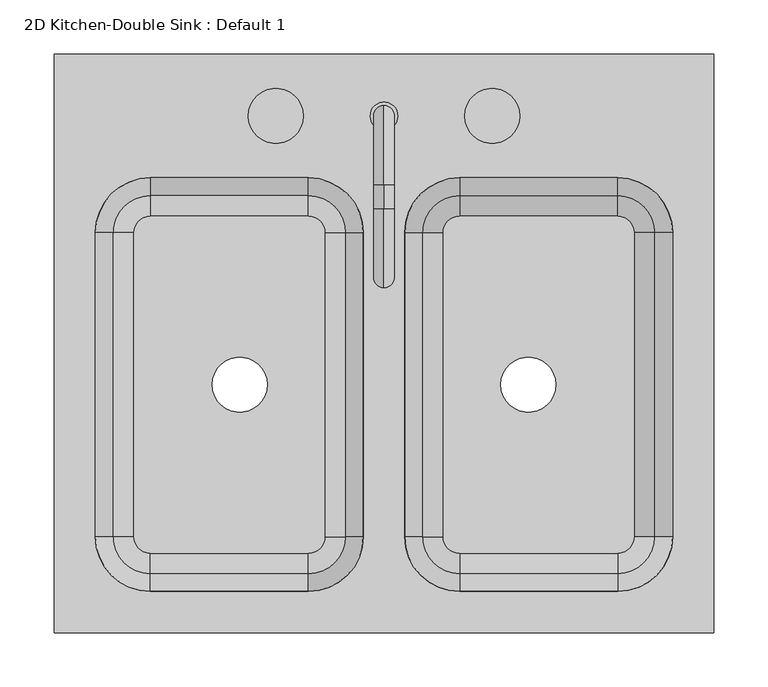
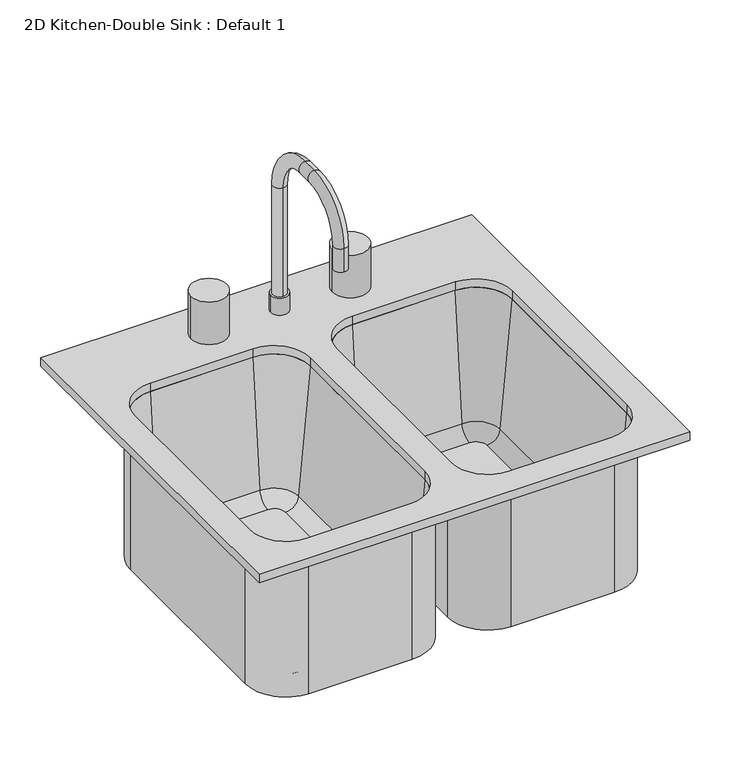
"""IFC4 building model written with IfcOpenShell, lengths in millimetres: flow terminal geometry, 2D Kitchen-Double Sink : Default 1."""

import ifcopenshell
import ifcopenshell.guid

model = None  # the IFC model being written
_history = None  # IfcOwnerHistory: only IFC2X3 demands one
_inside = {}  # id of a spatial element -> (the spatial element, [elements in it])
_under = {}  # id of a project, library or spatial element -> (it, [spatial elements below it])
_declared = {}  # id of a project -> (the project, [libraries it declares])
_typed = {}  # id of a type object -> (the type object, [elements of that type])
_made_of = {}  # id of a material, layer set ... -> (it, [elements and type objects made of it])


def new_model(schema):
    """Start an empty IFC model of exactly this schema.

    Asked for "IFC4X3", IfcOpenShell would pick the latest addendum, in which some entities
    have other attributes; the version numbers below select the first issue.
    IFC2X3 requires an IfcOwnerHistory on every rooted entity: one is made here for all.
    """
    global model, _history
    if schema == "IFC4X3":
        model = ifcopenshell.file(schema_version=(4, 3, 0, 0))
    else:
        model = ifcopenshell.file(schema=schema)
    _inside.clear()
    _under.clear()
    _declared.clear()
    _typed.clear()
    _made_of.clear()
    _history = None
    if model.schema == "IFC2X3":
        org = make("IfcOrganization", Name="unknown")
        user = make(
            "IfcPersonAndOrganization",
            ThePerson=make("IfcPerson", FamilyName="unknown"),
            TheOrganization=org,
        )
        app = make(
            "IfcApplication",
            ApplicationDeveloper=org,
            Version="unknown",
            ApplicationFullName="unknown",
            ApplicationIdentifier="unknown",
        )
        _history = make(
            "IfcOwnerHistory",
            OwningUser=user,
            OwningApplication=app,
            ChangeAction="ADDED",
            CreationDate=0,
        )
    return model


def make(cls, **values):
    """One entity of the class cls with the attributes given. An attribute that is None is left unset."""
    return model.create_entity(
        cls, **{name: value for name, value in values.items() if value is not None}
    )


def rooted(cls, **values):
    """An entity with a GlobalId (a new one), such as an element, a storey or a relation."""
    return make(cls, GlobalId=ifcopenshell.guid.new(), OwnerHistory=_history, **values)


def si_unit(unit_type, name, prefix=None):
    """IfcSIUnit, for example si_unit("LENGTHUNIT", "METRE", prefix="MILLI")."""
    return make("IfcSIUnit", UnitType=unit_type, Prefix=prefix, Name=name)


def assignment(units):
    """IfcUnitAssignment: the units of a project."""
    return None if units is None else make("IfcUnitAssignment", Units=units)


def point(xyz):
    """IfcCartesianPoint."""
    return None if xyz is None else make("IfcCartesianPoint", Coordinates=xyz)


def direction(xyz):
    """IfcDirection."""
    return None if xyz is None else make("IfcDirection", DirectionRatios=xyz)


def frame(location, z_axis=None, x_axis=None):
    """IfcAxis2Placement3D, a coordinate frame: its origin and axes. An axis left out is left unset."""
    return make(
        "IfcAxis2Placement3D",
        Location=point(location),
        Axis=direction(z_axis),
        RefDirection=direction(x_axis),
    )


def frame_2d(location, x_axis=None):
    """IfcAxis2Placement2D, a coordinate frame in the plane: its origin and x axis."""
    return make(
        "IfcAxis2Placement2D", Location=point(location), RefDirection=direction(x_axis)
    )


def origin():
    """The frame at (0, 0, 0) with its axes left unset."""
    return frame((0.0, 0.0, 0.0))


def place(relative_to, where):
    """IfcLocalPlacement: puts the frame where relative to a parent placement (None: the world)."""
    return make(
        "IfcLocalPlacement", PlacementRelTo=relative_to, RelativePlacement=where
    )


def context(
    kind, dimensions, precision=None, world=None, true_north=None, identifier=None
):
    """IfcGeometricRepresentationContext, for example the 3D "Model" context."""
    return make(
        "IfcGeometricRepresentationContext",
        ContextIdentifier=identifier,
        ContextType=kind,
        CoordinateSpaceDimension=dimensions,
        Precision=precision,
        WorldCoordinateSystem=world,
        TrueNorth=true_north,
    )


def project(units=None, contexts=None):
    """IfcProject with its units and contexts."""
    return rooted(
        "IfcProject",
        Name="project",
        RepresentationContexts=contexts,
        UnitsInContext=assignment(units),
    )


def spatial(cls, under=None, at=None, **own):
    """A site, building, storey or space (cls), placed at a placement, below another one or the project."""
    s = rooted(cls, ObjectPlacement=at, **own)
    if under is not None:
        _under.setdefault(under.id(), (under, []))[1].append(s)
    return s


def polyline(points):
    """IfcPolyline through the points."""
    return make("IfcPolyline", Points=[point(p) for p in points])


def circle_curve(where, radius):
    """IfcCircle in the frame where."""
    return make("IfcCircle", Position=where, Radius=radius)


def ellipse_curve(where, semi_axis1, semi_axis2):
    """IfcEllipse in the frame where."""
    return make(
        "IfcEllipse", Position=where, SemiAxis1=semi_axis1, SemiAxis2=semi_axis2
    )


def trimmed(basis, trim1, trim2, sense, master):
    """IfcTrimmedCurve: the piece of a basis curve between two trims."""
    return make(
        "IfcTrimmedCurve",
        BasisCurve=basis,
        Trim1=trim1,
        Trim2=trim2,
        SenseAgreement=sense,
        MasterRepresentation=master,
    )


def segment(curve, same_sense, transition):
    """IfcCompositeCurveSegment."""
    return make(
        "IfcCompositeCurveSegment",
        Transition=transition,
        SameSense=same_sense,
        ParentCurve=curve,
    )


def composite_curve(segments, self_intersect=None):
    """IfcCompositeCurve: segments joined end to end."""
    return make("IfcCompositeCurve", Segments=segments, SelfIntersect=self_intersect)


def outline(outer, holes=None, kind="AREA"):
    """IfcArbitraryClosedProfileDef: a profile drawn as a closed curve; with holes, ...WithVoids."""
    if holes is None:
        return make("IfcArbitraryClosedProfileDef", ProfileType=kind, OuterCurve=outer)
    return make(
        "IfcArbitraryProfileDefWithVoids",
        ProfileType=kind,
        OuterCurve=outer,
        InnerCurves=holes,
    )


def extrude(swept, where, along, depth):
    """IfcExtrudedAreaSolid: the profile swept, set in the frame where, extruded along a direction by depth."""
    return make(
        "IfcExtrudedAreaSolid",
        SweptArea=swept,
        Position=where,
        ExtrudedDirection=direction(along),
        Depth=depth,
    )


def shape(context_of_items, identifier, shape_type, items):
    """IfcShapeRepresentation: the items that make up one representation, for example the "Body"."""
    return make(
        "IfcShapeRepresentation",
        ContextOfItems=context_of_items,
        RepresentationIdentifier=identifier,
        RepresentationType=shape_type,
        Items=items,
    )


def source(mapping_origin, context_of_items, identifier, shape_type, items):
    """IfcRepresentationMap: a shape defined once, which mapped items show again and again."""
    return make(
        "IfcRepresentationMap",
        MappingOrigin=mapping_origin,
        MappedRepresentation=shape(context_of_items, identifier, shape_type, items),
    )


def transform(
    local_origin,
    x_axis=None,
    y_axis=None,
    z_axis=None,
    scale=None,
    scale2=None,
    scale3=None,
    uniform=True,
):
    """IfcCartesianTransformationOperator3D, or its non-uniform kind. x_axis, y_axis, z_axis: its Axis1, 2, 3."""
    if uniform:
        return make(
            "IfcCartesianTransformationOperator3D",
            Axis1=direction(x_axis),
            Axis2=direction(y_axis),
            LocalOrigin=point(local_origin),
            Scale=scale,
            Axis3=direction(z_axis),
        )
    return make(
        "IfcCartesianTransformationOperator3DnonUniform",
        Axis1=direction(x_axis),
        Axis2=direction(y_axis),
        LocalOrigin=point(local_origin),
        Scale=scale,
        Axis3=direction(z_axis),
        Scale2=scale2,
        Scale3=scale3,
    )


def mapped(mapping_source, mapping_target):
    """IfcMappedItem: shows the shape of a source again, moved by a transform."""
    return make(
        "IfcMappedItem", MappingSource=mapping_source, MappingTarget=mapping_target
    )


def made_of(thing, what):
    """Note that an element or type object is made of a material, layer set ...; save() writes the relation."""
    if what is not None:
        _made_of.setdefault(what.id(), (what, []))[1].append(thing)
    return thing


def element(
    cls,
    number,
    at=None,
    inside=None,
    cuts=None,
    type_object=None,
    material=None,
    context=None,
    identifier="Body",
    shape_type=None,
    held_by="IfcProductDefinitionShape",
    body=None,
    shapes=None,
    **own,
):
    """One element of the class cls, such as IfcWall. Its Tag is "e" and its number.

    at: its placement. inside: the storey or other place that contains it. cuts: it is an
    opening in that element (IfcRelVoidsElement). A single representation is given by context,
    identifier, shape_type and body (its items); several are given by shapes. held_by: the class
    of the entity that holds the representations. save() writes the other relations.
    """
    e = rooted(cls, Tag="e%d" % number, ObjectPlacement=at, **own)
    if body is not None:
        shapes = [shape(context, identifier, shape_type, body)]
    if shapes is not None:
        e.Representation = make(held_by, Representations=shapes)
    if inside is not None:
        _inside.setdefault(inside.id(), (inside, []))[1].append(e)
    if cuts is not None:
        rooted(
            "IfcRelVoidsElement", RelatingBuildingElement=cuts, RelatedOpeningElement=e
        )
    if type_object is not None:
        _typed.setdefault(type_object.id(), (type_object, []))[1].append(e)
    return made_of(e, material)


def aggregate(whole, parts):
    """IfcRelAggregates: a whole, such as a stair, and the parts it consists of."""
    return rooted("IfcRelAggregates", RelatingObject=whole, RelatedObjects=parts)


def save(model, path):
    """Write the relations noted so far, then the file.

    IfcRelAggregates (storeys below a building ...), IfcRelContainedInSpatialStructure (elements
    in a storey), IfcRelDefinesByType, IfcRelAssociatesMaterial and IfcRelDeclares: one each for
    every whole, place, type object, material and project.
    """
    for whole, parts in _under.values():
        aggregate(whole, parts)
    for where, things in _inside.values():
        rooted(
            "IfcRelContainedInSpatialStructure",
            RelatedElements=things,
            RelatingStructure=where,
        )
    for kind, things in _typed.values():
        rooted("IfcRelDefinesByType", RelatedObjects=things, RelatingType=kind)
    for what, things in _made_of.values():
        rooted("IfcRelAssociatesMaterial", RelatedObjects=things, RelatingMaterial=what)
    for by, libraries in _declared.values():
        rooted("IfcRelDeclares", RelatingContext=by, RelatedDefinitions=libraries)
    model.write(path)


def plane_surface(at):
    """IfcPlane: the flat surface through the origin of the frame at, square to its z axis."""
    return make("IfcPlane", Position=at)


def cylinder_surface(at, radius):
    """IfcCylindricalSurface: all points at the distance radius from the z axis of the frame at."""
    return make("IfcCylindricalSurface", Position=at, Radius=radius)


def revolved_surface(curve, axis_point, axis_direction):
    """IfcSurfaceOfRevolution: the curve turned about the line through axis_point along axis_direction."""
    return make(
        "IfcSurfaceOfRevolution",
        SweptCurve=make("IfcArbitraryOpenProfileDef", ProfileType="CURVE", Curve=curve),
        AxisPosition=make("IfcAxis1Placement", Location=point(axis_point), Axis=direction(axis_direction)),
    )


def advanced_brep(points, edges, surfaces, faces):
    """IfcAdvancedBrep: a solid bounded by faces that lie on surfaces and meet in shared edges.

    An edge is (start, end): straight between two places in points (the first is 0);
    or (start, end, curve); or (start, end, curve, False) where it runs against its curve.
    A face is (place in surfaces, loops), or (place, loops, False) where it looks against
    its surface's normal. A loop lists edges by number (the first is 1), with a minus sign
    where the edge is run from its end to its start. The first loop is the outer one.
    """
    corners = [point(p) for p in points]
    vertices = [make("IfcVertexPoint", VertexGeometry=c) for c in corners]
    made = []
    for start, end, *more in edges:
        made.append(
            make(
                "IfcEdgeCurve",
                EdgeStart=vertices[start],
                EdgeEnd=vertices[end],
                EdgeGeometry=more[0] if more else make("IfcPolyline", Points=[corners[start], corners[end]]),
                SameSense=more[1] if len(more) > 1 else True,
            )
        )
    hull = []
    for where, loops, *sense in faces:
        bounds = []
        for j, loop in enumerate(loops):
            ring = [make("IfcOrientedEdge", EdgeElement=made[abs(k) - 1], Orientation=k > 0) for k in loop]
            bounds.append(
                make(
                    "IfcFaceOuterBound" if j == 0 else "IfcFaceBound",
                    Bound=make("IfcEdgeLoop", EdgeList=ring),
                    Orientation=True,
                )
            )
        hull.append(make("IfcAdvancedFace", Bounds=bounds, FaceSurface=surfaces[where], SameSense=sense[0] if sense else True))
    return make("IfcAdvancedBrep", Outer=make("IfcClosedShell", CfsFaces=hull))


def flow_terminal_2d_kitchen_double_sink_default_1_641e8a09(model_context):
    return source(origin(), model_context, "Body", "SolidModel", [
        advanced_brep(
        [(231.5892342, 120.0275693, 555.625), (85.5392406, 120.0275693, 555.625), (70.2508224, 104.7391511, 555.625), (70.2508224, -176.2483489, 555.625), (85.5392406, -191.5367671, 555.625), (231.5892406, -191.5367671, 555.625), (246.8776588, -176.2483489, 555.625), (246.8776588, 104.7391511, 555.625), (123.6392406, -35.7545989, 555.625), (174.4392406, -35.7545989, 555.625), (28.3892406, 104.7391511, 546.1), (85.5392406, 161.8891511, 546.1), (231.5892406, 161.8891511, 546.1), (288.7392406, 104.7391511, 546.1), (288.7392406, -176.2483489, 546.1), (231.5892406, -233.3983489, 546.1), (85.5392406, -233.3983489, 546.1), (28.3892406, -176.2483489, 546.1), (123.6392406, -35.7545989, 546.1), (174.4392406, -35.7545989, 546.1), (34.7392406, 104.7391511, 762.0), (85.5392406, 155.5391511, 762.0), (85.5392406, 161.8891511, 762.0), (28.3892406, 104.7391511, 762.0), (51.2733134, 104.7391511, 573.0146831), (85.5392406, 139.0050783, 573.0146831), (28.3892406, -176.2483489, 762.0), (34.7392406, -176.2483489, 762.0), (51.2733134, -176.2483489, 573.0146831), (85.5392406, -233.3983489, 762.0), (85.5392406, -227.0483489, 762.0), (85.5392406, -210.5142761, 573.0146831), (231.5892406, -233.3983489, 762.0), (231.5892406, -227.0483489, 762.0), (231.5892406, -210.5142761, 573.0146831), (288.7392406, -176.2483489, 762.0), (282.3892406, -176.2483489, 762.0), (265.8551678, -176.2483489, 573.0146831), (288.7392406, 104.7391511, 762.0), (282.3892406, 104.7391511, 762.0), (265.8551678, 104.7391511, 573.0146831), (231.5892406, 161.8891511, 762.0), (231.5892406, 155.5391511, 762.0), (231.5892406, 139.0050783, 573.0146831)],
        [
            (0, 1),
            (1, 2, circle_curve(frame((85.5392406, 104.7391511, 555.625), z_axis=(0.0, 0.0, 1.0), x_axis=(0.0, 1.0, 0.0)), 15.2884182)),
            (2, 3),
            (3, 4, circle_curve(frame((85.5392406, -176.2483489, 555.625), z_axis=(0.0, 0.0, 1.0), x_axis=(-1.0, 0.0, 0.0)), 15.2884182)),
            (4, 5),
            (5, 6, circle_curve(frame((231.5892406, -176.2483489, 555.625), z_axis=(0.0, 0.0, 1.0), x_axis=(0.0, -1.0, 0.0)), 15.2884182)),
            (6, 7),
            (7, 0, circle_curve(frame((231.5892406, 104.7391511, 555.625), z_axis=(0.0, 0.0, 1.0), x_axis=(1.0, 0.0, 0.0)), 15.2884182)),
            (8, 9, circle_curve(frame((149.0392406, -35.7545989, 555.625), z_axis=(0.0, 0.0, -1.0), x_axis=(1.0, 0.0, 0.0)), 25.4)),
            (9, 8, circle_curve(frame((149.0392406, -35.7545989, 555.625), z_axis=(0.0, 0.0, -1.0), x_axis=(1.0, 0.0, 0.0)), 25.4)),
            (10, 11, circle_curve(frame((85.5392406, 104.7391511, 546.1), z_axis=(0.0, 0.0, -1.0), x_axis=(0.0, 1.0, 0.0)), 57.15)),
            (11, 12),
            (12, 13, circle_curve(frame((231.5892406, 104.7391511, 546.1), z_axis=(0.0, 0.0, -1.0), x_axis=(1.0, 0.0, 0.0)), 57.15)),
            (13, 14),
            (14, 15, circle_curve(frame((231.5892406, -176.2483489, 546.1), z_axis=(0.0, 0.0, -1.0), x_axis=(0.0, -1.0, 0.0)), 57.15)),
            (15, 16),
            (16, 17, circle_curve(frame((85.5392406, -176.2483489, 546.1), z_axis=(0.0, 0.0, -1.0), x_axis=(-1.0, 0.0, 0.0)), 57.15)),
            (17, 10),
            (18, 19, circle_curve(frame((149.0392406, -35.7545989, 546.1), z_axis=(0.0, 0.0, 1.0), x_axis=(1.0, 0.0, 0.0)), 25.4)),
            (19, 18, circle_curve(frame((149.0392406, -35.7545989, 546.1), z_axis=(0.0, 0.0, 1.0), x_axis=(1.0, 0.0, 0.0)), 25.4)),
            (8, 18),
            (19, 9),
            (20, 21, circle_curve(frame((85.5392406, 104.7391511, 762.0), z_axis=(0.0, 0.0, -1.0), x_axis=(0.0, 1.0, 0.0)), 50.8)),
            (21, 22),
            (22, 23, circle_curve(frame((85.5392406, 104.7391511, 762.0), z_axis=(0.0, 0.0, 1.0), x_axis=(0.0, 1.0, 0.0)), 57.15)),
            (23, 20),
            (20, 24),
            (24, 25, circle_curve(frame((85.5392406, 104.7391511, 573.0146831), z_axis=(0.0, 0.0, -1.0), x_axis=(0.0, 1.0, 0.0)), 34.2659272)),
            (25, 21),
            (24, 2, circle_curve(frame((70.2508224, 104.7391511, 574.675), z_axis=(0.0, -1.0, 0.0), x_axis=(1.0, 0.0, 0.0)), 19.05)),
            (1, 25, circle_curve(frame((85.5392406, 120.0275693, 574.675), z_axis=(1.0, 0.0, 0.0), x_axis=(0.0, -1.0, 0.0)), 19.05)),
            (22, 11),
            (10, 23),
            (23, 26),
            (26, 27),
            (27, 20),
            (27, 28),
            (28, 24),
            (28, 3, circle_curve(frame((70.2508224, -176.2483489, 574.675), z_axis=(0.0, -1.0, 0.0), x_axis=(1.0, 0.0, 0.0)), 19.05)),
            (17, 26),
            (26, 29, circle_curve(frame((85.5392406, -176.2483489, 762.0), z_axis=(0.0, 0.0, 1.0), x_axis=(-1.0, 0.0, 0.0)), 57.15)),
            (29, 30),
            (30, 27, circle_curve(frame((85.5392406, -176.2483489, 762.0), z_axis=(0.0, 0.0, -1.0), x_axis=(-1.0, 0.0, 0.0)), 50.8)),
            (30, 31),
            (31, 28, circle_curve(frame((85.5392406, -176.2483489, 573.0146831), z_axis=(0.0, 0.0, -1.0), x_axis=(-1.0, 0.0, 0.0)), 34.2659272)),
            (31, 4, circle_curve(frame((85.5392406, -191.5367671, 574.675), z_axis=(1.0, 0.0, 0.0), x_axis=(0.0, 1.0, 0.0)), 19.05)),
            (16, 29),
            (29, 32),
            (32, 33),
            (33, 30),
            (33, 34),
            (34, 31),
            (34, 5, circle_curve(frame((231.5892406, -191.5367671, 574.675), z_axis=(1.0, 0.0, 0.0), x_axis=(0.0, 1.0, 0.0)), 19.05)),
            (15, 32),
            (32, 35, circle_curve(frame((231.5892406, -176.2483489, 762.0), z_axis=(0.0, 0.0, 1.0), x_axis=(0.0, -1.0, 0.0)), 57.15)),
            (35, 36),
            (36, 33, circle_curve(frame((231.5892406, -176.2483489, 762.0), z_axis=(0.0, 0.0, -1.0), x_axis=(0.0, -1.0, 0.0)), 50.8)),
            (36, 37),
            (37, 34, circle_curve(frame((231.5892406, -176.2483489, 573.0146831), z_axis=(0.0, 0.0, -1.0), x_axis=(0.0, -1.0, 0.0)), 34.2659272)),
            (37, 6, circle_curve(frame((246.8776588, -176.2483489, 574.675), z_axis=(0.0, 1.0, 0.0), x_axis=(-1.0, 0.0, 0.0)), 19.05)),
            (14, 35),
            (35, 38),
            (38, 39),
            (39, 36),
            (39, 40),
            (40, 37),
            (40, 7, circle_curve(frame((246.8776588, 104.7391511, 574.675), z_axis=(0.0, 1.0, 0.0), x_axis=(-1.0, 0.0, 0.0)), 19.05)),
            (13, 38),
            (38, 41, circle_curve(frame((231.5892406, 104.7391511, 762.0), z_axis=(0.0, 0.0, 1.0), x_axis=(1.0, 0.0, 0.0)), 57.15)),
            (41, 42),
            (42, 39, circle_curve(frame((231.5892406, 104.7391511, 762.0), z_axis=(0.0, 0.0, -1.0), x_axis=(1.0, 0.0, 0.0)), 50.8)),
            (42, 43),
            (43, 40, circle_curve(frame((231.5892406, 104.7391511, 573.0146831), z_axis=(0.0, 0.0, -1.0), x_axis=(1.0, 0.0, 0.0)), 34.2659272)),
            (43, 0, circle_curve(frame((231.5892406, 120.0275693, 574.675), z_axis=(-1.0, 0.0, 0.0), x_axis=(0.0, -1.0, 0.0)), 19.05)),
            (12, 41),
            (21, 42),
            (41, 22),
            (25, 43),
        ],
        [
            plane_surface(frame((85.5392406, 120.0275693, 555.625), z_axis=(0.0, 0.0, 1.0), x_axis=(-1.0, 0.0, 0.0))),
            plane_surface(frame((85.5392406, 120.0275693, 546.1), z_axis=(0.0, 0.0, -1.0), x_axis=(1.0, 0.0, 0.0))),
            revolved_surface(polyline([(174.4392406, -35.7545989, 546.1), (174.4392406, -35.7545989, 555.625)]), (149.0392406, -35.7545989, 0.0), (0.0, 0.0, -1.0)),
            plane_surface(frame((85.5392406, 104.7391511, 762.0), z_axis=(0.0, 0.0, 1.0), x_axis=(0.0, 1.0, 0.0))),
            revolved_surface(polyline([(85.5392406, 155.5391511, 762.0), (85.5392406, 139.0050783, 573.0146831)]), (85.5392406, 104.7391511, 0.0), (0.0, 0.0, 1.0)),
            revolved_surface(trimmed(ellipse_curve(frame((85.5392406, 120.0275693, 574.675), z_axis=(-1.0, 0.0, 0.0), x_axis=(0.0, -1.0, 0.0)), 19.05, 19.05), [point((85.5392406, 139.0050783, 573.0146831))], [point((85.5392406, 120.0275693, 555.625))], True, "CARTESIAN"), (85.5392406, 104.7391511, 0.0), (0.0, 0.0, 1.0)),
            cylinder_surface(frame((85.5392406, 104.7391511, 0.0), z_axis=(0.0, 0.0, 1.0), x_axis=(0.0, 1.0, 0.0)), 57.15),
            plane_surface(frame((28.3892406, 104.7391511, 762.0), z_axis=(0.0, 0.0, 1.0), x_axis=(0.0, -1.0, 0.0))),
            plane_surface(frame((34.7392406, 104.7391511, 762.0), z_axis=(0.996194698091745, 0.0, 0.08715574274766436), x_axis=(0.0, -1.0, 0.0))),
            revolved_surface(polyline([(89.3008224, -176.2483489, 574.675), (89.3008224, 104.7391511, 574.675)]), (70.2508224, 104.7391511, 574.675), (0.0, -1.0, 0.0)),
            plane_surface(frame((28.3892406, 104.7391511, 546.1), z_axis=(-1.0, 0.0, 0.0), x_axis=(0.0, -1.0, 0.0))),
            plane_surface(frame((85.5392406, -176.2483489, 762.0), z_axis=(0.0, 0.0, 1.0), x_axis=(-1.0, 0.0, 0.0))),
            revolved_surface(polyline([(34.7392406, -176.2483489, 762.0), (51.2733134, -176.2483489, 573.0146831)]), (85.5392406, -176.2483489, 0.0), (0.0, 0.0, 1.0)),
            revolved_surface(trimmed(ellipse_curve(frame((70.2508224, -176.2483489, 574.675), z_axis=(0.0, -1.0, 0.0), x_axis=(1.0, 0.0, 0.0)), 19.05, 19.05), [point((51.2733134, -176.2483489, 573.0146831))], [point((70.2508224, -176.2483489, 555.625))], True, "CARTESIAN"), (85.5392406, -176.2483489, 0.0), (0.0, 0.0, 1.0)),
            cylinder_surface(frame((85.5392406, -176.2483489, 0.0), z_axis=(0.0, 0.0, 1.0), x_axis=(-1.0, 0.0, 0.0)), 57.15),
            plane_surface(frame((85.5392406, -233.3983489, 762.0), z_axis=(0.0, 0.0, 1.0), x_axis=(1.0, 0.0, 0.0))),
            plane_surface(frame((85.5392406, -227.0483489, 762.0), z_axis=(0.0, 0.996194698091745, 0.08715574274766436), x_axis=(1.0, 0.0, 0.0))),
            revolved_surface(polyline([(231.5892406, -172.48676709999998, 574.675), (85.5392406, -172.48676709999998, 574.675)]), (85.5392406, -191.5367671, 574.675), (1.0, 0.0, 0.0)),
            plane_surface(frame((85.5392406, -233.3983489, 546.1), z_axis=(0.0, -1.0, 0.0), x_axis=(1.0, 0.0, 0.0))),
            plane_surface(frame((231.5892406, -176.2483489, 762.0), z_axis=(0.0, 0.0, 1.0), x_axis=(0.0, -1.0, 0.0))),
            revolved_surface(polyline([(231.5892406, -227.0483489, 762.0), (231.5892406, -210.5142761, 573.0146831)]), (231.5892406, -176.2483489, 0.0), (0.0, 0.0, 1.0)),
            revolved_surface(trimmed(ellipse_curve(frame((231.5892406, -191.5367671, 574.675), z_axis=(1.0, 0.0, 0.0), x_axis=(0.0, 1.0, 0.0)), 19.05, 19.05), [point((231.5892406, -210.5142761, 573.0146831))], [point((231.5892406, -191.5367671, 555.625))], True, "CARTESIAN"), (231.5892406, -176.2483489, 0.0), (0.0, 0.0, 1.0)),
            cylinder_surface(frame((231.5892406, -176.2483489, 0.0), z_axis=(0.0, 0.0, 1.0), x_axis=(0.0, -1.0, 0.0)), 57.15),
            plane_surface(frame((288.7392406, -176.2483489, 762.0), z_axis=(0.0, 0.0, 1.0), x_axis=(0.0, 1.0, 0.0))),
            plane_surface(frame((282.3892406, -176.2483489, 762.0), z_axis=(-0.996194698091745, 0.0, 0.08715574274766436), x_axis=(0.0, 1.0, 0.0))),
            revolved_surface(polyline([(227.8276588, 104.73915110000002, 574.675), (227.8276588, -176.2483489, 574.675)]), (246.8776588, -176.2483489, 574.675), (0.0, 1.0, 0.0)),
            plane_surface(frame((288.7392406, -176.2483489, 546.1), z_axis=(1.0, 0.0, 0.0), x_axis=(0.0, 1.0, 0.0))),
            plane_surface(frame((231.5892406, 104.7391511, 762.0), z_axis=(0.0, 0.0, 1.0), x_axis=(1.0, 0.0, 0.0))),
            revolved_surface(polyline([(282.3892406, 104.7391511, 762.0), (265.8551678, 104.7391511, 573.0146831)]), (231.5892406, 104.7391511, 0.0), (0.0, 0.0, 1.0)),
            revolved_surface(trimmed(ellipse_curve(frame((246.8776588, 104.7391511, 574.675), z_axis=(0.0, 1.0, 0.0), x_axis=(-1.0, 0.0, 0.0)), 19.05, 19.05), [point((265.8551678, 104.7391511, 573.0146831))], [point((246.8776588, 104.7391511, 555.625))], True, "CARTESIAN"), (231.5892406, 104.7391511, 0.0), (0.0, 0.0, 1.0)),
            cylinder_surface(frame((231.5892406, 104.7391511, 0.0), z_axis=(0.0, 0.0, 1.0), x_axis=(1.0, 0.0, 0.0)), 57.15),
            plane_surface(frame((231.5892406, 161.8891511, 762.0), z_axis=(0.0, 0.0, 1.0), x_axis=(-1.0, 0.0, 0.0))),
            plane_surface(frame((231.5892406, 155.5391511, 762.0), z_axis=(0.0, -0.996194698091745, 0.08715574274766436), x_axis=(-1.0, 0.0, 0.0))),
            revolved_surface(polyline([(85.5392406, 100.9775693, 574.675), (231.5892406, 100.9775693, 574.675)]), (231.5892406, 120.0275693, 574.675), (-1.0, 0.0, 0.0)),
            plane_surface(frame((231.5892406, 161.8891511, 546.1), z_axis=(0.0, 1.0, 0.0), x_axis=(-1.0, 0.0, 0.0))),
        ],
        [
            (0, [[1, 2, 3, 4, 5, 6, 7, 8], [9, 10]]),
            (1, [[11, 12, 13, 14, 15, 16, 17, 18], [19, 20]]),
            (2, [[-9, 21, -20, 22]]),
            (2, [[-10, -22, -19, -21]]),
            (3, [[23, 24, 25, 26]]),
            (4, [[-23, 27, 28, 29]]),
            (5, [[-28, 30, -2, 31]]),
            (6, [[-25, 32, -11, 33]]),
            (7, [[-26, 34, 35, 36]]),
            (8, [[-27, -36, 37, 38]]),
            (9, [[-30, -38, 39, -3]]),
            (10, [[-33, -18, 40, -34]]),
            (11, [[-35, 41, 42, 43]]),
            (12, [[-37, -43, 44, 45]]),
            (13, [[-39, -45, 46, -4]]),
            (14, [[-40, -17, 47, -41]]),
            (15, [[-42, 48, 49, 50]]),
            (16, [[-44, -50, 51, 52]]),
            (17, [[-46, -52, 53, -5]]),
            (18, [[-47, -16, 54, -48]]),
            (19, [[-49, 55, 56, 57]]),
            (20, [[-51, -57, 58, 59]]),
            (21, [[-53, -59, 60, -6]]),
            (22, [[-54, -15, 61, -55]]),
            (23, [[-56, 62, 63, 64]]),
            (24, [[-58, -64, 65, 66]]),
            (25, [[-60, -66, 67, -7]]),
            (26, [[-61, -14, 68, -62]]),
            (27, [[-63, 69, 70, 71]]),
            (28, [[-65, -71, 72, 73]]),
            (29, [[-67, -73, 74, -8]]),
            (30, [[-68, -13, 75, -69]]),
            (31, [[-24, 76, -70, 77]]),
            (32, [[-29, 78, -72, -76]]),
            (33, [[-31, -1, -74, -78]]),
            (34, [[-32, -77, -75, -12]]),
        ],
    ),
        advanced_brep(
        [(-38.8723412, 104.7391511, 555.625), (-54.1607594, 120.0275693, 555.625), (-200.2107594, 120.0275693, 555.625), (-215.4991776, 104.7391511, 555.625), (-215.4991776, -176.2483489, 555.625), (-200.2107594, -191.5367671, 555.625), (-54.1607594, -191.5367671, 555.625), (-38.8723412, -176.2483489, 555.625), (-143.0607594, -35.7545989, 555.625), (-92.2607594, -35.7545989, 555.625), (-257.3607594, 104.7391511, 546.1), (-200.2107594, 161.8891511, 546.1), (-54.1607594, 161.8891511, 546.1), (2.9892406, 104.7391511, 546.1), (2.9892406, -176.2483489, 546.1), (-54.1607594, -233.3983489, 546.1), (-200.2107594, -233.3983489, 546.1), (-257.3607594, -176.2483489, 546.1), (-143.0607594, -35.7545989, 546.1), (-92.2607594, -35.7545989, 546.1), (-54.1607594, 161.8891511, 762.0), (2.9892406, 104.7391511, 762.0), (-19.8948322, 104.7391511, 573.0146831), (-54.1607594, 139.0050783, 573.0146831), (-3.3607594, 104.7391511, 762.0), (-54.1607594, 155.5391511, 762.0), (2.9892406, -176.2483489, 762.0), (-19.8948322, -176.2483489, 573.0146831), (-3.3607594, -176.2483489, 762.0), (-54.1607594, -233.3983489, 762.0), (-54.1607594, -210.5142761, 573.0146831), (-54.1607594, -227.0483489, 762.0), (-200.2107594, -233.3983489, 762.0), (-200.2107594, -210.5142761, 573.0146831), (-200.2107594, -227.0483489, 762.0), (-257.3607594, -176.2483489, 762.0), (-234.4766866, -176.2483489, 573.0146831), (-251.0107594, -176.2483489, 762.0), (-257.3607594, 104.7391511, 762.0), (-234.4766866, 104.7391511, 573.0146831), (-251.0107594, 104.7391511, 762.0), (-200.2107594, 161.8891511, 762.0), (-200.2107594, 139.0050783, 573.0146831), (-200.2107594, 155.5391511, 762.0)],
        [
            (0, 1, circle_curve(frame((-54.1607594, 104.7391511, 555.625), z_axis=(0.0, 0.0, 1.0), x_axis=(0.0, 1.0, 0.0)), 15.2884182)),
            (1, 2),
            (2, 3, circle_curve(frame((-200.2107594, 104.7391511, 555.625), z_axis=(0.0, 0.0, 1.0), x_axis=(-1.0, 0.0, 0.0)), 15.2884182)),
            (3, 4),
            (4, 5, circle_curve(frame((-200.2107594, -176.2483489, 555.625), z_axis=(0.0, 0.0, 1.0), x_axis=(0.0, -1.0, 0.0)), 15.2884182)),
            (5, 6),
            (6, 7, circle_curve(frame((-54.1607594, -176.2483489, 555.625), z_axis=(0.0, 0.0, 1.0), x_axis=(1.0, 0.0, 0.0)), 15.2884182)),
            (7, 0),
            (8, 9, circle_curve(frame((-117.6607594, -35.7545989, 555.625), z_axis=(0.0, 0.0, -1.0), x_axis=(1.0, 0.0, 0.0)), 25.4)),
            (9, 8, circle_curve(frame((-117.6607594, -35.7545989, 555.625), z_axis=(0.0, 0.0, -1.0), x_axis=(1.0, 0.0, 0.0)), 25.4)),
            (10, 11, circle_curve(frame((-200.2107594, 104.7391511, 546.1), z_axis=(0.0, 0.0, -1.0), x_axis=(-1.0, 0.0, 0.0)), 57.15)),
            (11, 12),
            (12, 13, circle_curve(frame((-54.1607594, 104.7391511, 546.1), z_axis=(0.0, 0.0, -1.0), x_axis=(0.0, 1.0, 0.0)), 57.15)),
            (13, 14),
            (14, 15, circle_curve(frame((-54.1607594, -176.2483489, 546.1), z_axis=(0.0, 0.0, -1.0), x_axis=(1.0, 0.0, 0.0)), 57.15)),
            (15, 16),
            (16, 17, circle_curve(frame((-200.2107594, -176.2483489, 546.1), z_axis=(0.0, 0.0, -1.0), x_axis=(0.0, -1.0, 0.0)), 57.15)),
            (17, 10),
            (18, 19, circle_curve(frame((-117.6607594, -35.7545989, 546.1), z_axis=(0.0, 0.0, 1.0), x_axis=(1.0, 0.0, 0.0)), 25.4)),
            (19, 18, circle_curve(frame((-117.6607594, -35.7545989, 546.1), z_axis=(0.0, 0.0, 1.0), x_axis=(1.0, 0.0, 0.0)), 25.4)),
            (8, 18),
            (19, 9),
            (12, 20),
            (20, 21, circle_curve(frame((-54.1607594, 104.7391511, 762.0), z_axis=(0.0, 0.0, -1.0), x_axis=(0.0, 1.0, 0.0)), 57.15)),
            (21, 13),
            (0, 22, circle_curve(frame((-38.8723412, 104.7391511, 574.675), z_axis=(0.0, -1.0, 0.0), x_axis=(1.0, 0.0, 0.0)), 19.05)),
            (22, 23, circle_curve(frame((-54.1607594, 104.7391511, 573.0146831), z_axis=(0.0, 0.0, 1.0), x_axis=(0.0, 1.0, 0.0)), 34.2659272)),
            (23, 1, circle_curve(frame((-54.1607594, 120.0275693, 574.675), z_axis=(-1.0, 0.0, 0.0), x_axis=(0.0, 1.0, 0.0)), 19.05)),
            (22, 24),
            (24, 25, circle_curve(frame((-54.1607594, 104.7391511, 762.0), z_axis=(0.0, 0.0, 1.0), x_axis=(0.0, 1.0, 0.0)), 50.8)),
            (25, 23),
            (20, 25),
            (24, 21),
            (21, 26),
            (26, 14),
            (7, 27, circle_curve(frame((-38.8723412, -176.2483489, 574.675), z_axis=(0.0, -1.0, 0.0), x_axis=(1.0, 0.0, 0.0)), 19.05)),
            (27, 22),
            (27, 28),
            (28, 24),
            (28, 26),
            (26, 29, circle_curve(frame((-54.1607594, -176.2483489, 762.0), z_axis=(0.0, 0.0, -1.0), x_axis=(1.0, 0.0, 0.0)), 57.15)),
            (29, 15),
            (6, 30, circle_curve(frame((-54.1607594, -191.5367671, 574.675), z_axis=(-1.0, 0.0, 0.0), x_axis=(0.0, -1.0, 0.0)), 19.05)),
            (30, 27, circle_curve(frame((-54.1607594, -176.2483489, 573.0146831), z_axis=(0.0, 0.0, 1.0), x_axis=(1.0, 0.0, 0.0)), 34.2659272)),
            (30, 31),
            (31, 28, circle_curve(frame((-54.1607594, -176.2483489, 762.0), z_axis=(0.0, 0.0, 1.0), x_axis=(1.0, 0.0, 0.0)), 50.8)),
            (31, 29),
            (29, 32),
            (32, 16),
            (5, 33, circle_curve(frame((-200.2107594, -191.5367671, 574.675), z_axis=(-1.0, 0.0, 0.0), x_axis=(0.0, -1.0, 0.0)), 19.05)),
            (33, 30),
            (33, 34),
            (34, 31),
            (34, 32),
            (32, 35, circle_curve(frame((-200.2107594, -176.2483489, 762.0), z_axis=(0.0, 0.0, -1.0), x_axis=(0.0, -1.0, 0.0)), 57.15)),
            (35, 17),
            (4, 36, circle_curve(frame((-215.4991776, -176.2483489, 574.675), z_axis=(0.0, 1.0, 0.0), x_axis=(-1.0, 0.0, 0.0)), 19.05)),
            (36, 33, circle_curve(frame((-200.2107594, -176.2483489, 573.0146831), z_axis=(0.0, 0.0, 1.0), x_axis=(0.0, -1.0, 0.0)), 34.2659272)),
            (36, 37),
            (37, 34, circle_curve(frame((-200.2107594, -176.2483489, 762.0), z_axis=(0.0, 0.0, 1.0), x_axis=(0.0, -1.0, 0.0)), 50.8)),
            (37, 35),
            (35, 38),
            (38, 10),
            (3, 39, circle_curve(frame((-215.4991776, 104.7391511, 574.675), z_axis=(0.0, 1.0, 0.0), x_axis=(-1.0, 0.0, 0.0)), 19.05)),
            (39, 36),
            (39, 40),
            (40, 37),
            (40, 38),
            (38, 41, circle_curve(frame((-200.2107594, 104.7391511, 762.0), z_axis=(0.0, 0.0, -1.0), x_axis=(-1.0, 0.0, 0.0)), 57.15)),
            (41, 11),
            (2, 42, circle_curve(frame((-200.2107594, 120.0275693, 574.675), z_axis=(1.0, 0.0, 0.0), x_axis=(0.0, 1.0, 0.0)), 19.05)),
            (42, 39, circle_curve(frame((-200.2107594, 104.7391511, 573.0146831), z_axis=(0.0, 0.0, 1.0), x_axis=(-1.0, 0.0, 0.0)), 34.2659272)),
            (42, 43),
            (43, 40, circle_curve(frame((-200.2107594, 104.7391511, 762.0), z_axis=(0.0, 0.0, 1.0), x_axis=(-1.0, 0.0, 0.0)), 50.8)),
            (43, 41),
            (41, 20),
            (23, 42),
            (25, 43),
        ],
        [
            plane_surface(frame((-200.2107594, 117.4391511, 555.625), z_axis=(0.0, 0.0, 1.0), x_axis=(-1.0, 0.0, 0.0))),
            plane_surface(frame((-200.2107594, 117.4391511, 546.1), z_axis=(0.0, 0.0, -1.0), x_axis=(1.0, 0.0, 0.0))),
            revolved_surface(polyline([(-92.26075940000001, -35.7545989, 546.1), (-92.26075940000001, -35.7545989, 555.625)]), (-117.6607594, -35.7545989, 0.0), (0.0, 0.0, -1.0)),
            cylinder_surface(frame((-54.1607594, 104.7391511, 0.0), z_axis=(0.0, 0.0, -1.0), x_axis=(0.0, 1.0, 0.0)), 57.15),
            revolved_surface(trimmed(ellipse_curve(frame((-54.1607594, 120.0275693, 574.675), z_axis=(1.0, 0.0, 0.0), x_axis=(0.0, 1.0, 0.0)), 19.05, 19.05), [point((-54.1607594, 120.0275693, 555.625))], [point((-54.1607594, 139.0050783, 573.0146831))], True, "CARTESIAN"), (-54.1607594, 104.7391511, 0.0), (0.0, 0.0, -1.0)),
            revolved_surface(polyline([(-54.1607594, 139.0050783, 573.0146831), (-54.1607594, 155.5391511, 762.0)]), (-54.1607594, 104.7391511, 0.0), (0.0, 0.0, -1.0)),
            plane_surface(frame((-54.1607594, 104.7391511, 762.0), z_axis=(0.0, 0.0, 1.0), x_axis=(0.0, 1.0, 0.0))),
            plane_surface(frame((2.9892406, 104.7391511, 762.0), z_axis=(1.0, 0.0, 0.0), x_axis=(0.0, -1.0, 0.0))),
            revolved_surface(polyline([(-19.8223412, -176.2483489, 574.675), (-19.8223412, 104.7391511, 574.675)]), (-38.8723412, 104.7391511, 574.675), (0.0, -1.0, 0.0)),
            plane_surface(frame((-19.8948322, 104.7391511, 573.0146831), z_axis=(-0.996194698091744, 0.0, 0.08715574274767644), x_axis=(0.0, -1.0, 0.0))),
            plane_surface(frame((-3.3607594, 104.7391511, 762.0), z_axis=(0.0, 0.0, 1.0), x_axis=(0.0, -1.0, 0.0))),
            cylinder_surface(frame((-54.1607594, -176.2483489, 0.0), z_axis=(0.0, 0.0, -1.0), x_axis=(1.0, 0.0, 0.0)), 57.15),
            revolved_surface(trimmed(ellipse_curve(frame((-38.8723412, -176.2483489, 574.675), z_axis=(0.0, -1.0, 0.0), x_axis=(1.0, 0.0, 0.0)), 19.05, 19.05), [point((-38.8723412, -176.2483489, 555.625))], [point((-19.8948322, -176.2483489, 573.0146831))], True, "CARTESIAN"), (-54.1607594, -176.2483489, 0.0), (0.0, 0.0, -1.0)),
            revolved_surface(polyline([(-19.8948322, -176.2483489, 573.0146831), (-3.3607594, -176.2483489, 762.0)]), (-54.1607594, -176.2483489, 0.0), (0.0, 0.0, -1.0)),
            plane_surface(frame((-54.1607594, -176.2483489, 762.0), z_axis=(0.0, 0.0, 1.0), x_axis=(1.0, 0.0, 0.0))),
            plane_surface(frame((-54.1607594, -233.3983489, 762.0), z_axis=(0.0, -1.0, 0.0), x_axis=(-1.0, 0.0, 0.0))),
            revolved_surface(polyline([(-200.21075940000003, -210.5867671, 574.675), (-54.1607594, -210.5867671, 574.675)]), (-54.1607594, -191.5367671, 574.675), (-1.0, 0.0, 0.0)),
            plane_surface(frame((-54.1607594, -210.5142761, 573.0146831), z_axis=(0.0, 0.996194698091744, 0.08715574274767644), x_axis=(-1.0, 0.0, 0.0))),
            plane_surface(frame((-54.1607594, -227.0483489, 762.0), z_axis=(0.0, 0.0, 1.0), x_axis=(-1.0, 0.0, 0.0))),
            cylinder_surface(frame((-200.2107594, -176.2483489, 0.0), z_axis=(0.0, 0.0, -1.0), x_axis=(0.0, -1.0, 0.0)), 57.15),
            revolved_surface(trimmed(ellipse_curve(frame((-200.2107594, -191.5367671, 574.675), z_axis=(-1.0, 0.0, 0.0), x_axis=(0.0, -1.0, 0.0)), 19.05, 19.05), [point((-200.2107594, -191.5367671, 555.625))], [point((-200.2107594, -210.5142761, 573.0146831))], True, "CARTESIAN"), (-200.2107594, -176.2483489, 0.0), (0.0, 0.0, -1.0)),
            revolved_surface(polyline([(-200.2107594, -210.5142761, 573.0146831), (-200.2107594, -227.0483489, 762.0)]), (-200.2107594, -176.2483489, 0.0), (0.0, 0.0, -1.0)),
            plane_surface(frame((-200.2107594, -176.2483489, 762.0), z_axis=(0.0, 0.0, 1.0), x_axis=(0.0, -1.0, 0.0))),
            plane_surface(frame((-257.3607594, -176.2483489, 762.0), z_axis=(-1.0, 0.0, 0.0), x_axis=(0.0, 1.0, 0.0))),
            revolved_surface(polyline([(-234.5491776, 104.73915110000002, 574.675), (-234.5491776, -176.2483489, 574.675)]), (-215.4991776, -176.2483489, 574.675), (0.0, 1.0, 0.0)),
            plane_surface(frame((-234.4766866, -176.2483489, 573.0146831), z_axis=(0.996194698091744, 0.0, 0.08715574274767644), x_axis=(0.0, 1.0, 0.0))),
            plane_surface(frame((-251.0107594, -176.2483489, 762.0), z_axis=(0.0, 0.0, 1.0), x_axis=(0.0, 1.0, 0.0))),
            cylinder_surface(frame((-200.2107594, 104.7391511, 0.0), z_axis=(0.0, 0.0, -1.0), x_axis=(-1.0, 0.0, 0.0)), 57.15),
            revolved_surface(trimmed(ellipse_curve(frame((-215.4991776, 104.7391511, 574.675), z_axis=(0.0, 1.0, 0.0), x_axis=(-1.0, 0.0, 0.0)), 19.05, 19.05), [point((-215.4991776, 104.7391511, 555.625))], [point((-234.4766866, 104.7391511, 573.0146831))], True, "CARTESIAN"), (-200.2107594, 104.7391511, 0.0), (0.0, 0.0, -1.0)),
            revolved_surface(polyline([(-234.4766866, 104.7391511, 573.0146831), (-251.0107594, 104.7391511, 762.0)]), (-200.2107594, 104.7391511, 0.0), (0.0, 0.0, -1.0)),
            plane_surface(frame((-200.2107594, 104.7391511, 762.0), z_axis=(0.0, 0.0, 1.0), x_axis=(-1.0, 0.0, 0.0))),
            plane_surface(frame((-200.2107594, 161.8891511, 762.0), z_axis=(0.0, 1.0, 0.0), x_axis=(1.0, 0.0, 0.0))),
            revolved_surface(polyline([(-54.16075939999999, 139.0775693, 574.675), (-200.2107594, 139.0775693, 574.675)]), (-200.2107594, 120.0275693, 574.675), (1.0, 0.0, 0.0)),
            plane_surface(frame((-200.2107594, 139.0050783, 573.0146831), z_axis=(0.0, -0.996194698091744, 0.08715574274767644), x_axis=(1.0, 0.0, 0.0))),
            plane_surface(frame((-200.2107594, 155.5391511, 762.0), z_axis=(0.0, 0.0, 1.0), x_axis=(1.0, 0.0, 0.0))),
        ],
        [
            (0, [[1, 2, 3, 4, 5, 6, 7, 8], [9, 10]]),
            (1, [[11, 12, 13, 14, 15, 16, 17, 18], [19, 20]]),
            (2, [[-9, 21, -20, 22]]),
            (2, [[-10, -22, -19, -21]]),
            (3, [[-13, 23, 24, 25]]),
            (4, [[-1, 26, 27, 28]]),
            (5, [[-27, 29, 30, 31]]),
            (6, [[-24, 32, -30, 33]]),
            (7, [[-25, 34, 35, -14]]),
            (8, [[-26, -8, 36, 37]]),
            (9, [[-29, -37, 38, 39]]),
            (10, [[-33, -39, 40, -34]]),
            (11, [[-35, 41, 42, -15]]),
            (12, [[-36, -7, 43, 44]]),
            (13, [[-38, -44, 45, 46]]),
            (14, [[-40, -46, 47, -41]]),
            (15, [[-42, 48, 49, -16]]),
            (16, [[-43, -6, 50, 51]]),
            (17, [[-45, -51, 52, 53]]),
            (18, [[-47, -53, 54, -48]]),
            (19, [[-49, 55, 56, -17]]),
            (20, [[-50, -5, 57, 58]]),
            (21, [[-52, -58, 59, 60]]),
            (22, [[-54, -60, 61, -55]]),
            (23, [[-56, 62, 63, -18]]),
            (24, [[-57, -4, 64, 65]]),
            (25, [[-59, -65, 66, 67]]),
            (26, [[-61, -67, 68, -62]]),
            (27, [[-63, 69, 70, -11]]),
            (28, [[-64, -3, 71, 72]]),
            (29, [[-66, -72, 73, 74]]),
            (30, [[-68, -74, 75, -69]]),
            (31, [[-23, -12, -70, 76]]),
            (32, [[-28, 77, -71, -2]]),
            (33, [[-31, 78, -73, -77]]),
            (34, [[-32, -76, -75, -78]]),
        ],
    ),
        advanced_brep(
        [(2.9892406, 212.6891511, 774.7), (28.3892406, 212.6891511, 774.7), (15.6892406, 222.2141511, 962.025), (15.6892406, 203.1641511, 962.025), (15.6892406, 203.1641511, 800.1), (15.6892406, 222.2141511, 800.1), (15.6892406, 149.1891511, 1035.05), (15.6892406, 149.1891511, 1016.0), (15.6892406, 126.9641511, 1035.05), (15.6892406, 126.9641511, 1016.0), (15.6892406, 53.9391511, 962.025), (15.6892406, 72.9891511, 962.025), (15.6892406, 53.9391511, 927.1), (15.6892406, 72.9891511, 927.1), (2.9892406, 212.6891511, 800.1), (28.3892406, 212.6891511, 800.1)],
        [
            (0, 1, circle_curve(frame((15.6892406, 212.6891511, 774.7), z_axis=(0.0, 0.0, -1.0), x_axis=(1.0, 0.0, 0.0)), 12.7)),
            (1, 0, circle_curve(frame((15.6892406, 212.6891511, 774.7), z_axis=(0.0, 0.0, -1.0), x_axis=(1.0, 0.0, 0.0)), 12.7)),
            (2, 3, circle_curve(frame((15.6892406, 212.6891511, 962.025), z_axis=(0.0, 0.0, -1.0), x_axis=(0.0, -1.0, 0.0)), 9.525)),
            (3, 4),
            (4, 5, circle_curve(frame((15.6892406, 212.6891511, 800.1), z_axis=(0.0, 0.0, 1.0), x_axis=(0.0, -1.0, 0.0)), 9.525)),
            (5, 2),
            (3, 2, circle_curve(frame((15.6892406, 212.6891511, 962.025), z_axis=(0.0, 0.0, -1.0), x_axis=(0.0, -1.0, 0.0)), 9.525)),
            (5, 4, circle_curve(frame((15.6892406, 212.6891511, 800.1), z_axis=(0.0, 0.0, 1.0), x_axis=(0.0, -1.0, 0.0)), 9.525)),
            (2, 6, circle_curve(frame((15.6892406, 149.1891511, 962.025), z_axis=(1.0, 0.0, 0.0), x_axis=(0.0, 1.0, 0.0)), 73.025)),
            (6, 7, circle_curve(frame((15.6892406, 149.1891511, 1025.525), z_axis=(0.0, 1.0, 0.0), x_axis=(0.0, 0.0, -1.0)), 9.525)),
            (7, 3, circle_curve(frame((15.6892406, 149.1891511, 962.025), z_axis=(-1.0, 0.0, 0.0), x_axis=(0.0, 1.0, 0.0)), 53.975)),
            (7, 6, circle_curve(frame((15.6892406, 149.1891511, 1025.525), z_axis=(0.0, 1.0, 0.0), x_axis=(0.0, 0.0, -1.0)), 9.525)),
            (6, 8),
            (8, 9, circle_curve(frame((15.6892406, 126.9641511, 1025.525), z_axis=(0.0, 1.0, 0.0), x_axis=(0.0, 0.0, -1.0)), 9.525)),
            (9, 7),
            (9, 8, circle_curve(frame((15.6892406, 126.9641511, 1025.525), z_axis=(0.0, 1.0, 0.0), x_axis=(0.0, 0.0, -1.0)), 9.525)),
            (8, 10, circle_curve(frame((15.6892406, 126.9641511, 962.025), z_axis=(1.0, 0.0, 0.0), x_axis=(0.0, 0.0, 1.0)), 73.025)),
            (10, 11, circle_curve(frame((15.6892406, 63.4641511, 962.025), z_axis=(0.0, 0.0, 1.0), x_axis=(0.0, 1.0, 0.0)), 9.525)),
            (11, 9, circle_curve(frame((15.6892406, 126.9641511, 962.025), z_axis=(-1.0, 0.0, 0.0), x_axis=(0.0, 0.0, 1.0)), 53.975)),
            (11, 10, circle_curve(frame((15.6892406, 63.4641511, 962.025), z_axis=(0.0, 0.0, 1.0), x_axis=(0.0, 1.0, 0.0)), 9.525)),
            (12, 13, circle_curve(frame((15.6892406, 63.4641511, 927.1), z_axis=(0.0, 0.0, -1.0), x_axis=(0.0, 1.0, 0.0)), 9.525)),
            (13, 12, circle_curve(frame((15.6892406, 63.4641511, 927.1), z_axis=(0.0, 0.0, -1.0), x_axis=(0.0, 1.0, 0.0)), 9.525)),
            (10, 12),
            (13, 11),
            (14, 15, circle_curve(frame((15.6892406, 212.6891511, 800.1), z_axis=(0.0, 0.0, 1.0), x_axis=(1.0, 0.0, 0.0)), 12.7)),
            (15, 14, circle_curve(frame((15.6892406, 212.6891511, 800.1), z_axis=(0.0, 0.0, 1.0), x_axis=(1.0, 0.0, 0.0)), 12.7)),
            (14, 0),
            (1, 15),
        ],
        [
            plane_surface(frame((15.6892406, 203.1641511, 774.7), z_axis=(0.0, 0.0, -1.0), x_axis=(1.0, 0.0, 0.0))),
            cylinder_surface(frame((15.6892406, 212.6891511, 774.7), z_axis=(0.0, 0.0, -1.0), x_axis=(0.0, -1.0, 0.0)), 9.525),
            revolved_surface(trimmed(ellipse_curve(frame((15.6892406, 212.6891511, 962.025), z_axis=(0.0, 0.0, -1.0), x_axis=(0.0, -1.0, 0.0)), 9.525, 9.525), [point((15.6892406, 222.2141511, 962.025))], [point((15.6892406, 203.1641511, 962.025))], True, "CARTESIAN"), (15.6892406, 149.1891511, 962.025), (1.0, 0.0, 0.0)),
            revolved_surface(trimmed(ellipse_curve(frame((15.6892406, 212.6891511, 962.025), z_axis=(0.0, 0.0, -1.0), x_axis=(0.0, -1.0, 0.0)), 9.525, 9.525), [point((15.6892406, 203.1641511, 962.025))], [point((15.6892406, 222.2141511, 962.025))], True, "CARTESIAN"), (15.6892406, 149.1891511, 962.025), (1.0, 0.0, 0.0)),
            cylinder_surface(frame((15.6892406, 149.1891511, 1025.525), z_axis=(0.0, 1.0, 0.0), x_axis=(0.0, 0.0, -1.0)), 9.525),
            revolved_surface(trimmed(ellipse_curve(frame((15.6892406, 126.9641511, 1025.525), z_axis=(0.0, 1.0, 0.0), x_axis=(0.0, 0.0, -1.0)), 9.525, 9.525), [point((15.6892406, 126.9641511, 1035.05))], [point((15.6892406, 126.9641511, 1016.0))], True, "CARTESIAN"), (15.6892406, 126.9641511, 962.025), (1.0, 0.0, 0.0)),
            revolved_surface(trimmed(ellipse_curve(frame((15.6892406, 126.9641511, 1025.525), z_axis=(0.0, 1.0, 0.0), x_axis=(0.0, 0.0, -1.0)), 9.525, 9.525), [point((15.6892406, 126.9641511, 1016.0))], [point((15.6892406, 126.9641511, 1035.05))], True, "CARTESIAN"), (15.6892406, 126.9641511, 962.025), (1.0, 0.0, 0.0)),
            plane_surface(frame((15.6892406, 53.9391511, 927.1), z_axis=(0.0, 0.0, -1.0), x_axis=(-1.0, 0.0, 0.0))),
            cylinder_surface(frame((15.6892406, 63.4641511, 962.025), z_axis=(0.0, 0.0, 1.0), x_axis=(0.0, 1.0, 0.0)), 9.525),
            plane_surface(frame((28.3892406, 212.6891511, 800.1), z_axis=(0.0, 0.0, 1.0), x_axis=(0.0, 1.0, 0.0))),
            cylinder_surface(frame((15.6892406, 212.6891511, 774.7), z_axis=(0.0, 0.0, 1.0), x_axis=(1.0, 0.0, 0.0)), 12.7),
        ],
        [
            (0, [[1, 2]]),
            (1, [[3, 4, 5, 6]]),
            (1, [[7, -6, 8, -4]]),
            (2, [[-3, 9, 10, 11]]),
            (3, [[-7, -11, 12, -9]]),
            (4, [[-10, 13, 14, 15]]),
            (4, [[-12, -15, 16, -13]]),
            (5, [[-14, 17, 18, 19]]),
            (6, [[-16, -19, 20, -17]]),
            (7, [[21, 22]]),
            (8, [[-18, 23, -22, 24]]),
            (8, [[-20, -24, -21, -23]]),
            (9, [[25, 26], [-5, -8]]),
            (10, [[-25, 27, -2, 28]]),
            (10, [[-26, -28, -1, -27]]),
        ],
    ),
        extrude(outline(composite_curve([segment(trimmed(circle_curve(frame_2d((-84.3107594, 212.6891511)), 25.4), [point((-109.7107594, 212.6891511))], [point((-58.9107594, 212.6891511))], False, "CARTESIAN"), True, "CONTINUOUS"), segment(trimmed(circle_curve(frame_2d((-84.3107594, 212.6891511)), 25.4), [point((-58.9107594, 212.6891511))], [point((-109.7107594, 212.6891511))], False, "CARTESIAN"), True, "CONTINUOUS")], self_intersect=False)), frame((0.0, 0.0, 774.7), z_axis=(0.0, 0.0, 1.0), x_axis=(1.0, 0.0, 0.0)), (0.0, 0.0, 1.0), 63.5),
        extrude(outline(composite_curve([segment(trimmed(circle_curve(frame_2d((115.6892406, 212.6891511)), 25.4), [point((90.2892406, 212.6891511))], [point((141.0892406, 212.6891511))], False, "CARTESIAN"), True, "CONTINUOUS"), segment(trimmed(circle_curve(frame_2d((115.6892406, 212.6891511)), 25.4), [point((141.0892406, 212.6891511))], [point((90.2892406, 212.6891511))], False, "CARTESIAN"), True, "CONTINUOUS")], self_intersect=False)), frame((0.0, 0.0, 774.7), z_axis=(0.0, 0.0, 1.0), x_axis=(1.0, 0.0, 0.0)), (0.0, 0.0, 1.0), 63.5),
        extrude(outline(polyline([(320.4892406, 269.8391511), (320.4892406, -265.1483489), (-289.1107594, -265.1483489), (-289.1107594, 269.8391511), (320.4892406, 269.8391511)]), holes=[composite_curve([segment(polyline([(-54.1607594, 155.5391511), (-200.2107594, 155.5391511)]), True, "CONTINUOUS"), segment(trimmed(circle_curve(frame_2d((-200.2107594, 104.7391511)), 50.8), [point((-200.2107594, 155.5391511))], [point((-251.0107594, 104.7391511))], True, "CARTESIAN"), True, "CONTINUOUS"), segment(polyline([(-251.0107594, 104.7391511), (-251.0107594, -176.2483489)]), True, "CONTINUOUS"), segment(trimmed(circle_curve(frame_2d((-200.2107594, -176.2483489)), 50.8), [point((-251.0107594, -176.2483489))], [point((-200.2107594, -227.0483489))], True, "CARTESIAN"), True, "CONTINUOUS"), segment(polyline([(-200.2107594, -227.0483489), (-54.1607594, -227.0483489)]), True, "CONTINUOUS"), segment(trimmed(circle_curve(frame_2d((-54.1607594, -176.2483489)), 50.8), [point((-54.1607594, -227.0483489))], [point((-3.3607594, -176.2483489))], True, "CARTESIAN"), True, "CONTINUOUS"), segment(polyline([(-3.3607594, -176.2483489), (-3.3607594, 104.7391511)]), True, "CONTINUOUS"), segment(trimmed(circle_curve(frame_2d((-54.1607594, 104.7391511)), 50.8), [point((-3.3607594, 104.7391511))], [point((-54.1607594, 155.5391511))], True, "CARTESIAN"), True, "CONTINUOUS")], self_intersect=False), composite_curve([segment(polyline([(85.5392406, -227.0483489), (231.5892406, -227.0483489)]), True, "CONTINUOUS"), segment(trimmed(circle_curve(frame_2d((231.5892406, -176.2483489)), 50.8), [point((231.5892406, -227.0483489))], [point((282.3892406, -176.2483489))], True, "CARTESIAN"), True, "CONTINUOUS"), segment(polyline([(282.3892406, -176.2483489), (282.3892406, 104.7391511)]), True, "CONTINUOUS"), segment(trimmed(circle_curve(frame_2d((231.5892406, 104.7391511)), 50.8), [point((282.3892406, 104.7391511))], [point((231.5892406, 155.5391511))], True, "CARTESIAN"), True, "CONTINUOUS"), segment(polyline([(231.5892406, 155.5391511), (85.5392406, 155.5391511)]), True, "CONTINUOUS"), segment(trimmed(circle_curve(frame_2d((85.5392406, 104.7391511)), 50.8), [point((85.5392406, 155.5391511))], [point((34.7392406, 104.7391511))], True, "CARTESIAN"), True, "CONTINUOUS"), segment(polyline([(34.7392406, 104.7391511), (34.7392406, -176.2483489)]), True, "CONTINUOUS"), segment(trimmed(circle_curve(frame_2d((85.5392406, -176.2483489)), 50.8), [point((34.7392406, -176.2483489))], [point((85.5392406, -227.0483489))], True, "CARTESIAN"), True, "CONTINUOUS")], self_intersect=False)]), frame((0.0, 0.0, 762.0), z_axis=(0.0, 0.0, 1.0), x_axis=(1.0, 0.0, 0.0)), (0.0, 0.0, 1.0), 12.7),
    ])


if __name__ == "__main__":
    model = new_model("IFC4")
    model_context = context("Model", 3, world=origin())
    ifc_project = project(units=[si_unit("LENGTHUNIT", "METRE", prefix="MILLI")], contexts=[model_context])
    site = spatial("IfcSite", under=ifc_project)
    building = spatial("IfcBuilding", under=site)
    placement = place(None, origin())
    flow_terminal_2d_kitchen_double_sink_default_1_shape = flow_terminal_2d_kitchen_double_sink_default_1_641e8a09(model_context)
    element("IfcFlowTerminal", 1, ObjectType="2D Kitchen-Double Sink : Default 1", at=placement, inside=building, context=model_context, shape_type="MappedRepresentation", body=[
        mapped(flow_terminal_2d_kitchen_double_sink_default_1_shape, transform((0.0, 0.0, 0.0), x_axis=(1.0, 0.0, 0.0), y_axis=(0.0, 1.0, 0.0), z_axis=(0.0, 0.0, 1.0))),
    ])
    save(model, "model.ifc")
